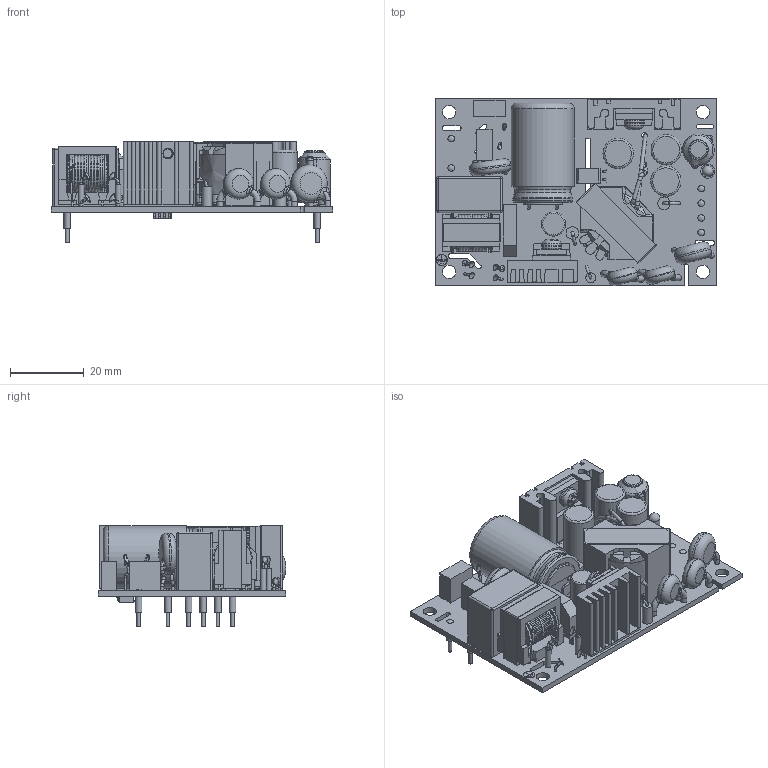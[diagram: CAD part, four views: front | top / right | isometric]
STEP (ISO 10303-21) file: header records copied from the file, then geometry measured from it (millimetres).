
FILE_DESCRIPTION (( 'STEP AP203' ), '1' );
FILE_NAME ('CFM40MXXX-P-1130103.STEP', '2024-08-02T09:08:40', ( '' ), ( '' ), 'SwSTEP 2.0', 'SolidWorks 2020', '' );
FILE_SCHEMA (( 'CONFIG_CONTROL_DESIGN' ));
Length unit declared in the file: millimetre
Products named in the file (1): CFM40MXXX-P-1130103
Bounding box: 76.2 x 50.8 x 27.4 mm (x, y, z)
Volume: 31813.8 mm3; surface area: 26901.2 mm2
Topology: 2 solids, 44 shells, 1609 faces, 4259 edges, 2702 vertices
Faces by surface type: plane 762, cylinder 427, torus 283, bspline 115, sphere 14, cone 8
Full cylindrical faces by diameter (mm): 0.4 x2, 0.5 x4, 0.583 x2, 0.6 x14, 0.7 x11, 0.8 x14, 0.9 x6, 1 x13, 1.2 x3, 1.4 x4, 1.5 x6, 1.7 x4, 1.8 x6, 2 x2, 2.7 x1, 2.92 x1, 3 x2, 3.3 x2, 3.4 x2, 3.6 x4, 3.8 x1, 5.1 x2, 5.4 x2, 6.5 x1, 7.4 x19, 8.2 x3, 8.8 x1, 10 x3, 11.2 x1, 11.8 x1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
Entity records: 63401 total; most frequent: CARTESIAN_POINT 26062, DIRECTION 7508, ORIENTED_EDGE 7356, EDGE_CURVE 3678, AXIS2_PLACEMENT_3D 2653, VERTEX_POINT 2569, EDGE_LOOP 2249, LINE 2202
